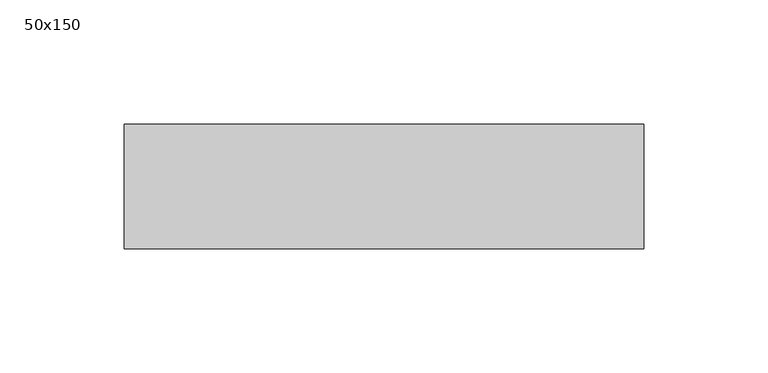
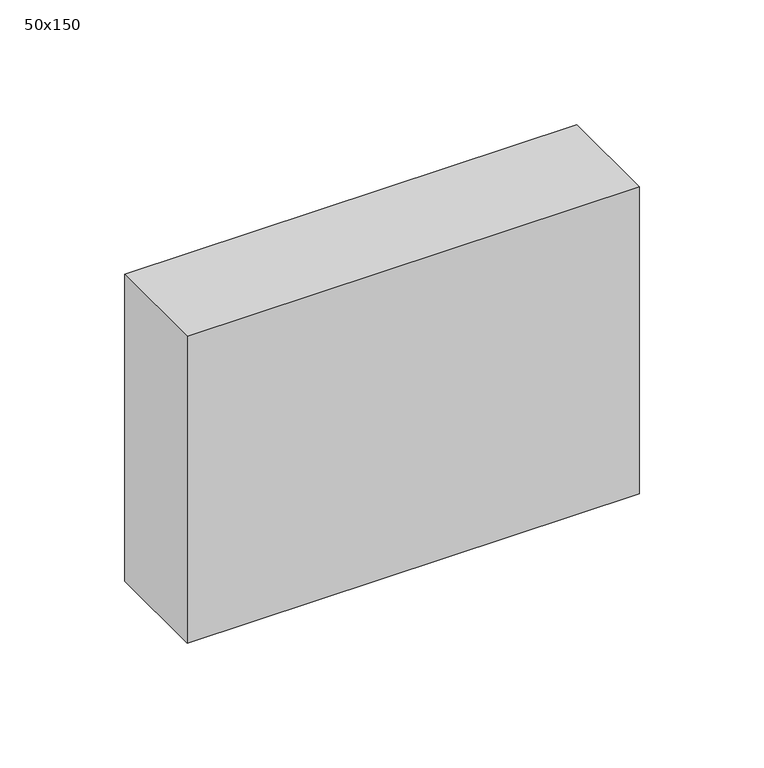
"""IFC4 building model written with IfcOpenShell, lengths in millimetres: beam geometry, Graded Timber : 50x150."""

from ifc_helpers import new_model, si_unit, frame, origin, place, context, project, spatial, polyline, outline, extrude, source, transform, mapped, element, save


def beam_50x150_991030f9(model_context):
    return source(origin(), model_context, "Body", "SweptSolid", [
        extrude(outline(polyline([(90.5, 25.0), (90.5, -25.0), (-118.5, -25.0), (-118.5, 25.0), (90.5, 25.0)])), frame((0.0, 0.0, -75.0), z_axis=(0.0, 0.0, 1.0), x_axis=(1.0, 0.0, 0.0)), (0.0, 0.0, 1.0), 150.0),
    ])


if __name__ == "__main__":
    model = new_model("IFC4")
    model_context = context("Model", 3, world=origin())
    ifc_project = project(units=[si_unit("LENGTHUNIT", "METRE", prefix="MILLI")], contexts=[model_context])
    site = spatial("IfcSite", under=ifc_project)
    building = spatial("IfcBuilding", under=site)
    placement = place(None, origin())
    beam_50x150_shape = beam_50x150_991030f9(model_context)
    element("IfcBeam", 1, ObjectType="Graded Timber : 50x150", at=placement, inside=building, context=model_context, shape_type="MappedRepresentation", body=[
        mapped(beam_50x150_shape, transform((0.0, 0.0, 0.0), x_axis=(1.0, 0.0, 0.0), y_axis=(0.0, 1.0, 0.0), z_axis=(0.0, 0.0, 1.0))),
    ])
    save(model, "model.ifc")
